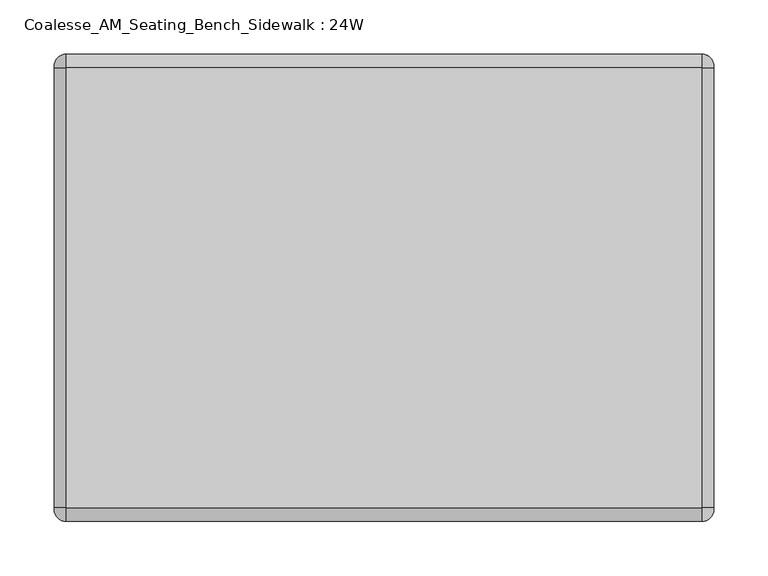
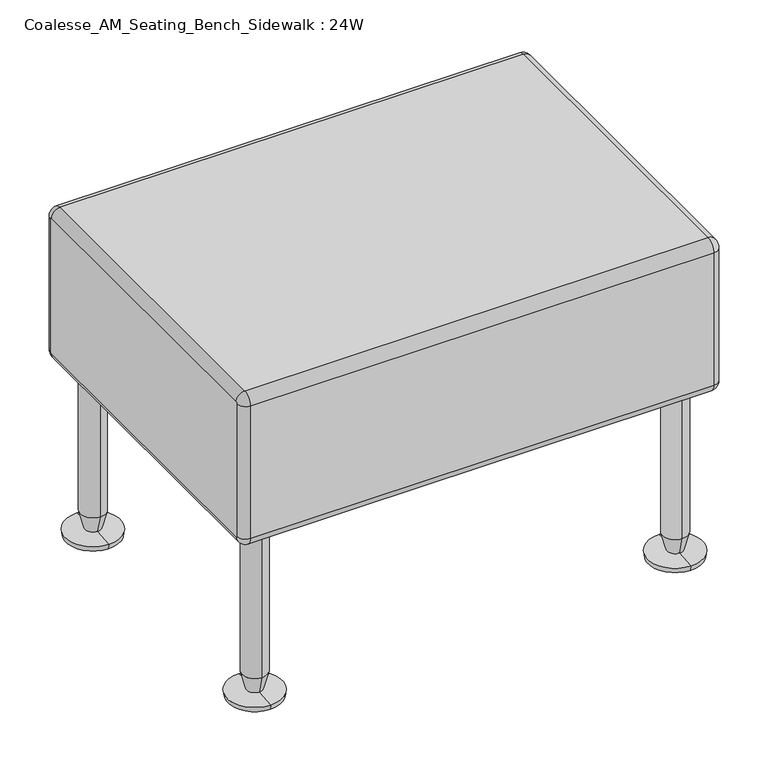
"""IFC4 building model written with IfcOpenShell, lengths in millimetres: furniture geometry, Coalesse_AM_Seating_Bench_Sidewalk : 24W."""

from ifc_helpers import new_model, si_unit, point, frame, origin, place, context, project, spatial, polyline, circle_curve, ellipse_curve, trimmed, source, transform, mapped, element, save
from ifc_brep_helpers import plane_surface, cylinder_surface, revolved_surface, advanced_brep


def coalesse_am_seating_bench_sidewalk_24w_9e0a4b1f(model_context):
    return source(origin(), model_context, "Body", "AdvancedBrep", [
        advanced_brep(
        [(465.8089794, -146.3050929, 420.6875), (465.8089794, -144.7175929, 419.1), (465.8089794, -144.7175929, 241.3), (465.8089794, -146.3050929, 239.7125), (465.8089794, -552.7050929, 239.7125), (465.8089794, -554.2925929, 241.3), (465.8089794, -554.2925929, 419.1), (465.8089794, -552.7050929, 420.6875), (1075.4089794, -552.7050929, 420.6875), (1075.4089794, -554.2925929, 419.1), (1075.4089794, -554.2925929, 241.3), (1075.4089794, -552.7050929, 239.7125), (1075.4089794, -146.3050929, 239.7125), (1075.4089794, -144.7175929, 241.3), (1075.4089794, -144.7175929, 419.1), (1075.4089794, -146.3050929, 420.6875), (476.9214794, -146.3050929, 431.8), (476.9214794, -552.7050929, 431.8), (1064.2964794, -552.7050929, 431.8), (1064.2964794, -146.3050929, 431.8), (476.9214794, -133.6050929, 419.1), (1064.2964794, -133.6050929, 419.1), (476.9214794, -133.6050929, 241.3), (1064.2964794, -133.6050929, 241.3), (476.9214794, -146.3050929, 228.6), (1064.2964794, -146.3050929, 228.6), (476.9214794, -552.7050929, 228.6), (1064.2964794, -552.7050929, 228.6), (476.9214794, -565.4050929, 241.3), (1064.2964794, -565.4050929, 241.3), (476.9214794, -565.4050929, 419.1), (1064.2964794, -565.4050929, 419.1)],
        [
            (0, 1, circle_curve(frame((465.8089794, -146.3050929, 419.1), z_axis=(-1.0, 0.0, 0.0), x_axis=(0.0, 0.0, 1.0)), 1.5875)),
            (1, 2),
            (2, 3, circle_curve(frame((465.8089794, -146.3050929, 241.3), z_axis=(-1.0, 0.0, 0.0), x_axis=(0.0, 1.0, 0.0)), 1.5875)),
            (3, 4),
            (4, 5, circle_curve(frame((465.8089794, -552.7050929, 241.3), z_axis=(-1.0, 0.0, 0.0), x_axis=(0.0, 0.0, -1.0)), 1.5875)),
            (5, 6),
            (6, 7, circle_curve(frame((465.8089794, -552.7050929, 419.1), z_axis=(-1.0, 0.0, 0.0), x_axis=(0.0, -1.0, 0.0)), 1.5875)),
            (7, 0),
            (8, 9, circle_curve(frame((1075.4089794, -552.7050929, 419.1), z_axis=(1.0, 0.0, 0.0), x_axis=(0.0, 0.0, 1.0)), 1.5875)),
            (9, 10),
            (10, 11, circle_curve(frame((1075.4089794, -552.7050929, 241.3), z_axis=(1.0, 0.0, 0.0), x_axis=(0.0, -1.0, 0.0)), 1.5875)),
            (11, 12),
            (12, 13, circle_curve(frame((1075.4089794, -146.3050929, 241.3), z_axis=(1.0, 0.0, 0.0), x_axis=(0.0, 0.0, -1.0)), 1.5875)),
            (13, 14),
            (14, 15, circle_curve(frame((1075.4089794, -146.3050929, 419.1), z_axis=(1.0, 0.0, 0.0), x_axis=(0.0, 1.0, 0.0)), 1.5875)),
            (15, 8),
            (16, 17),
            (17, 18),
            (18, 19),
            (19, 16),
            (20, 16, circle_curve(frame((476.9214794, -146.3050929, 419.1), z_axis=(1.0, 0.0, 0.0), x_axis=(0.0, -1.0, 0.0)), 12.7)),
            (19, 21, circle_curve(frame((1064.2964794, -146.3050929, 419.1), z_axis=(-1.0, 0.0, 0.0), x_axis=(0.0, -1.0, 0.0)), 12.7)),
            (21, 20),
            (22, 20),
            (21, 23),
            (23, 22),
            (24, 22, circle_curve(frame((476.9214794, -146.3050929, 241.3), z_axis=(1.0, 0.0, 0.0), x_axis=(0.0, -1.0, 0.0)), 12.7)),
            (23, 25, circle_curve(frame((1064.2964794, -146.3050929, 241.3), z_axis=(-1.0, 0.0, 0.0), x_axis=(0.0, -1.0, 0.0)), 12.7)),
            (25, 24),
            (26, 24),
            (25, 27),
            (27, 26),
            (28, 26, circle_curve(frame((476.9214794, -552.7050929, 241.3), z_axis=(1.0, 0.0, 0.0), x_axis=(0.0, -1.0, 0.0)), 12.7)),
            (27, 29, circle_curve(frame((1064.2964794, -552.7050929, 241.3), z_axis=(-1.0, 0.0, 0.0), x_axis=(0.0, -1.0, 0.0)), 12.7)),
            (29, 28),
            (30, 28),
            (29, 31),
            (31, 30),
            (17, 30, circle_curve(frame((476.9214794, -552.7050929, 419.1), z_axis=(1.0, 0.0, 0.0), x_axis=(0.0, -1.0, 0.0)), 12.7)),
            (31, 18, circle_curve(frame((1064.2964794, -552.7050929, 419.1), z_axis=(-1.0, 0.0, 0.0), x_axis=(0.0, -1.0, 0.0)), 12.7)),
            (20, 1, circle_curve(frame((476.9214794, -144.7175929, 419.1), z_axis=(0.0, 0.0, 1.0), x_axis=(0.0, -1.0, 0.0)), 11.1125)),
            (0, 16, circle_curve(frame((476.9214794, -146.3050929, 420.6875), z_axis=(0.0, 1.0, 0.0), x_axis=(0.0, 0.0, -1.0)), 11.1125)),
            (22, 2, circle_curve(frame((476.9214794, -144.7175929, 241.3), z_axis=(0.0, 0.0, 1.0), x_axis=(0.0, -1.0, 0.0)), 11.1125)),
            (24, 3, circle_curve(frame((476.9214794, -146.3050929, 239.7125), z_axis=(0.0, 1.0, 0.0), x_axis=(0.0, 0.0, 1.0)), 11.1125)),
            (26, 4, circle_curve(frame((476.9214794, -552.7050929, 239.7125), z_axis=(0.0, 1.0, 0.0), x_axis=(0.0, 0.0, 1.0)), 11.1125)),
            (28, 5, circle_curve(frame((476.9214794, -554.2925929, 241.3), z_axis=(0.0, 0.0, -1.0), x_axis=(0.0, 1.0, 0.0)), 11.1125)),
            (30, 6, circle_curve(frame((476.9214794, -554.2925929, 419.1), z_axis=(0.0, 0.0, -1.0), x_axis=(0.0, 1.0, 0.0)), 11.1125)),
            (17, 7, circle_curve(frame((476.9214794, -552.7050929, 420.6875), z_axis=(0.0, -1.0, 0.0), x_axis=(0.0, 0.0, -1.0)), 11.1125)),
            (31, 9, circle_curve(frame((1064.2964794, -554.2925929, 419.1), z_axis=(0.0, 0.0, 1.0), x_axis=(0.0, -1.0, 0.0)), 11.1125)),
            (8, 18, circle_curve(frame((1064.2964794, -552.7050929, 420.6875), z_axis=(0.0, -1.0, 0.0), x_axis=(0.0, 0.0, 1.0)), 11.1125)),
            (29, 10, circle_curve(frame((1064.2964794, -554.2925929, 241.3), z_axis=(0.0, 0.0, 1.0), x_axis=(0.0, -1.0, 0.0)), 11.1125)),
            (27, 11, circle_curve(frame((1064.2964794, -552.7050929, 239.7125), z_axis=(0.0, -1.0, 0.0), x_axis=(0.0, 0.0, -1.0)), 11.1125)),
            (25, 12, circle_curve(frame((1064.2964794, -146.3050929, 239.7125), z_axis=(0.0, -1.0, 0.0), x_axis=(0.0, 0.0, -1.0)), 11.1125)),
            (23, 13, circle_curve(frame((1064.2964794, -144.7175929, 241.3), z_axis=(0.0, 0.0, -1.0), x_axis=(0.0, 1.0, 0.0)), 11.1125)),
            (21, 14, circle_curve(frame((1064.2964794, -144.7175929, 419.1), z_axis=(0.0, 0.0, -1.0), x_axis=(0.0, 1.0, 0.0)), 11.1125)),
            (19, 15, circle_curve(frame((1064.2964794, -146.3050929, 420.6875), z_axis=(0.0, 1.0, 0.0), x_axis=(0.0, 0.0, 1.0)), 11.1125)),
        ],
        [
            plane_surface(frame((465.8089794, -146.3050929, 431.8), z_axis=(-1.0, 0.0, 0.0), x_axis=(0.0, 1.0, 0.0))),
            plane_surface(frame((1075.4089794, -146.3050929, 431.8), z_axis=(1.0, 0.0, 0.0), x_axis=(0.0, -1.0, 0.0))),
            plane_surface(frame((465.8089794, -552.7050929, 431.8), z_axis=(0.0, 0.0, 1.0), x_axis=(1.0, 0.0, 0.0))),
            cylinder_surface(frame((1075.4089794, -146.3050929, 419.1), z_axis=(-1.0, 0.0, 0.0), x_axis=(0.0, -1.0, 0.0)), 12.7),
            plane_surface(frame((465.8089794, -133.6050929, 419.1), z_axis=(0.0, 1.0, 0.0), x_axis=(1.0, 0.0, 0.0))),
            cylinder_surface(frame((1075.4089794, -146.3050929, 241.3), z_axis=(-1.0, 0.0, 0.0), x_axis=(0.0, -1.0, 0.0)), 12.7),
            plane_surface(frame((465.8089794, -146.3050929, 228.6), z_axis=(0.0, 0.0, -1.0), x_axis=(1.0, 0.0, 0.0))),
            cylinder_surface(frame((1075.4089794, -552.7050929, 241.3), z_axis=(-1.0, 0.0, 0.0), x_axis=(0.0, -1.0, 0.0)), 12.7),
            plane_surface(frame((465.8089794, -565.4050929, 241.3), z_axis=(0.0, -1.0, 0.0), x_axis=(1.0, 0.0, 0.0))),
            cylinder_surface(frame((1075.4089794, -552.7050929, 419.1), z_axis=(-1.0, 0.0, 0.0), x_axis=(0.0, -1.0, 0.0)), 12.7),
            revolved_surface(trimmed(ellipse_curve(frame((476.9214794, -146.3050929, 420.6875), z_axis=(0.0, -1.0, 0.0), x_axis=(0.0, 0.0, -1.0)), 11.1125, 11.1125), [point((476.9214794, -146.3050929, 431.8))], [point((465.8089794, -146.3050929, 420.6875))], True, "CARTESIAN"), (465.8089794, -146.3050929, 419.1), (-1.0, 0.0, 0.0)),
            cylinder_surface(frame((476.9214794, -144.7175929, 419.1), z_axis=(0.0, 0.0, -1.0), x_axis=(0.0, -1.0, 0.0)), 11.1125),
            revolved_surface(trimmed(ellipse_curve(frame((476.9214794, -144.7175929, 241.3), z_axis=(0.0, 0.0, 1.0), x_axis=(0.0, -1.0, 0.0)), 11.1125, 11.1125), [point((476.9214794, -133.6050929, 241.3))], [point((465.8089794, -144.7175929, 241.3))], True, "CARTESIAN"), (465.8089794, -146.3050929, 241.3), (-1.0, 0.0, 0.0)),
            cylinder_surface(frame((476.9214794, -146.3050929, 239.7125), z_axis=(0.0, -1.0, 0.0), x_axis=(0.0, 0.0, 1.0)), 11.1125),
            revolved_surface(trimmed(ellipse_curve(frame((476.9214794, -552.7050929, 239.7125), z_axis=(0.0, 1.0, 0.0), x_axis=(0.0, 0.0, 1.0)), 11.1125, 11.1125), [point((476.9214794, -552.7050929, 228.6))], [point((465.8089794, -552.7050929, 239.7125))], True, "CARTESIAN"), (465.8089794, -552.7050929, 241.3), (-1.0, 0.0, 0.0)),
            cylinder_surface(frame((476.9214794, -554.2925929, 241.3), z_axis=(0.0, 0.0, 1.0), x_axis=(0.0, 1.0, 0.0)), 11.1125),
            revolved_surface(trimmed(ellipse_curve(frame((476.9214794, -554.2925929, 419.1), z_axis=(0.0, 0.0, -1.0), x_axis=(0.0, 1.0, 0.0)), 11.1125, 11.1125), [point((476.9214794, -565.4050929, 419.1))], [point((465.8089794, -554.2925929, 419.1))], True, "CARTESIAN"), (465.8089794, -552.7050929, 419.1), (-1.0, 0.0, 0.0)),
            cylinder_surface(frame((476.9214794, -552.7050929, 420.6875), z_axis=(0.0, 1.0, 0.0), x_axis=(0.0, 0.0, -1.0)), 11.1125),
            revolved_surface(trimmed(ellipse_curve(frame((1064.2964794, -552.7050929, 420.6875), z_axis=(0.0, 1.0, 0.0), x_axis=(0.0, 0.0, 1.0)), 11.1125, 11.1125), [point((1064.2964794, -552.7050929, 431.8))], [point((1075.4089794, -552.7050929, 420.6875))], True, "CARTESIAN"), (1075.4089794, -552.7050929, 419.1), (1.0, 0.0, 0.0)),
            cylinder_surface(frame((1064.2964794, -554.2925929, 419.1), z_axis=(0.0, 0.0, -1.0), x_axis=(0.0, -1.0, 0.0)), 11.1125),
            revolved_surface(trimmed(ellipse_curve(frame((1064.2964794, -554.2925929, 241.3), z_axis=(0.0, 0.0, 1.0), x_axis=(0.0, -1.0, 0.0)), 11.1125, 11.1125), [point((1064.2964794, -565.4050929, 241.3))], [point((1075.4089794, -554.2925929, 241.3))], True, "CARTESIAN"), (1075.4089794, -552.7050929, 241.3), (1.0, 0.0, 0.0)),
            cylinder_surface(frame((1064.2964794, -552.7050929, 239.7125), z_axis=(0.0, 1.0, 0.0), x_axis=(0.0, 0.0, -1.0)), 11.1125),
            revolved_surface(trimmed(ellipse_curve(frame((1064.2964794, -146.3050929, 239.7125), z_axis=(0.0, -1.0, 0.0), x_axis=(0.0, 0.0, -1.0)), 11.1125, 11.1125), [point((1064.2964794, -146.3050929, 228.6))], [point((1075.4089794, -146.3050929, 239.7125))], True, "CARTESIAN"), (1075.4089794, -146.3050929, 241.3), (1.0, 0.0, 0.0)),
            cylinder_surface(frame((1064.2964794, -144.7175929, 241.3), z_axis=(0.0, 0.0, 1.0), x_axis=(0.0, 1.0, 0.0)), 11.1125),
            revolved_surface(trimmed(ellipse_curve(frame((1064.2964794, -144.7175929, 419.1), z_axis=(0.0, 0.0, -1.0), x_axis=(0.0, 1.0, 0.0)), 11.1125, 11.1125), [point((1064.2964794, -133.6050929, 419.1))], [point((1075.4089794, -144.7175929, 419.1))], True, "CARTESIAN"), (1075.4089794, -146.3050929, 419.1), (1.0, 0.0, 0.0)),
            cylinder_surface(frame((1064.2964794, -146.3050929, 420.6875), z_axis=(0.0, -1.0, 0.0), x_axis=(0.0, 0.0, 1.0)), 11.1125),
        ],
        [
            (0, [[1, 2, 3, 4, 5, 6, 7, 8]]),
            (1, [[9, 10, 11, 12, 13, 14, 15, 16]]),
            (2, [[17, 18, 19, 20]]),
            (3, [[21, -20, 22, 23]]),
            (4, [[24, -23, 25, 26]]),
            (5, [[27, -26, 28, 29]]),
            (6, [[30, -29, 31, 32]]),
            (7, [[33, -32, 34, 35]]),
            (8, [[36, -35, 37, 38]]),
            (9, [[39, -38, 40, -18]]),
            (10, [[41, -1, 42, -21]]),
            (11, [[-41, -24, 43, -2]]),
            (12, [[-43, -27, 44, -3]]),
            (13, [[-44, -30, 45, -4]]),
            (14, [[-45, -33, 46, -5]]),
            (15, [[-46, -36, 47, -6]]),
            (16, [[-47, -39, 48, -7]]),
            (17, [[-42, -8, -48, -17]]),
            (18, [[49, -9, 50, -40]]),
            (19, [[-49, -37, 51, -10]]),
            (20, [[-51, -34, 52, -11]]),
            (21, [[-52, -31, 53, -12]]),
            (22, [[-53, -28, 54, -13]]),
            (23, [[-54, -25, 55, -14]]),
            (24, [[-55, -22, 56, -15]]),
            (25, [[-50, -16, -56, -19]]),
        ],
    ),
        advanced_brep(
        [(1037.3089794, -187.5800929, 31.75), (1037.3089794, -155.8300929, 31.75), (1037.3089794, -155.8300929, 228.6), (1037.3089794, -187.5800929, 228.6), (1037.3089794, -181.5884463, 8.5001207), (1037.3089794, -161.8217394, 8.5001207), (1037.3089794, -206.6300929, 6.35), (1037.3089794, -136.7800929, 6.35), (1037.3089794, -205.5717596, 0.0), (1037.3089794, -137.8384262, 0.0), (1037.3089794, -171.7050929, 0.0), (1037.3089794, -171.7050929, 228.6)],
        [
            (0, 1, circle_curve(frame((1037.3089794, -171.7050929, 31.75), z_axis=(0.0, 0.0, 1.0), x_axis=(0.0, 1.0, 0.0)), 15.875)),
            (1, 2),
            (2, 3, circle_curve(frame((1037.3089794, -171.7050929, 228.6), z_axis=(0.0, 0.0, -1.0), x_axis=(0.0, 1.0, 0.0)), 15.875)),
            (3, 0),
            (1, 0, circle_curve(frame((1037.3089794, -171.7050929, 31.75), z_axis=(0.0, 0.0, 1.0), x_axis=(0.0, 1.0, 0.0)), 15.875)),
            (3, 2, circle_curve(frame((1037.3089794, -171.7050929, 228.6), z_axis=(0.0, 0.0, -1.0), x_axis=(0.0, 1.0, 0.0)), 15.875)),
            (4, 5, circle_curve(frame((1037.3089794, -171.7050929, 8.5001207), z_axis=(0.0, 0.0, 1.0), x_axis=(0.0, 1.0, 0.0)), 9.8833534)),
            (5, 1),
            (0, 4),
            (5, 4, circle_curve(frame((1037.3089794, -171.7050929, 8.5001207), z_axis=(0.0, 0.0, 1.0), x_axis=(0.0, 1.0, 0.0)), 9.8833534)),
            (6, 7, circle_curve(frame((1037.3089794, -171.7050929, 6.35), z_axis=(0.0, 0.0, 1.0), x_axis=(0.0, 1.0, 0.0)), 34.925)),
            (7, 5),
            (4, 6),
            (7, 6, circle_curve(frame((1037.3089794, -171.7050929, 6.35), z_axis=(0.0, 0.0, 1.0), x_axis=(0.0, 1.0, 0.0)), 34.925)),
            (8, 9, circle_curve(frame((1037.3089794, -171.7050929, 0.0), z_axis=(0.0, 0.0, 1.0), x_axis=(0.0, 1.0, 0.0)), 33.8666667)),
            (9, 7),
            (6, 8),
            (9, 8, circle_curve(frame((1037.3089794, -171.7050929, 0.0), z_axis=(0.0, 0.0, 1.0), x_axis=(0.0, 1.0, 0.0)), 33.8666667)),
            (10, 9),
            (8, 10),
            (2, 11),
            (11, 3),
        ],
        [
            cylinder_surface(frame((1037.3089794, -171.7050929, -95.25), z_axis=(0.0, 0.0, -1.0), x_axis=(0.0, 1.0, 0.0)), 15.875),
            revolved_surface(polyline([(1037.3089794, -155.8300929, 31.75), (1037.3089794, -161.8217394, 8.5001207)]), (1037.3089794, -171.7050929, -95.25), (0.0, 0.0, -1.0)),
            revolved_surface(polyline([(1037.3089794, -161.8217394, 8.5001207), (1037.3089794, -136.7800929, 6.35)]), (1037.3089794, -171.7050929, -95.25), (0.0, 0.0, -1.0)),
            revolved_surface(polyline([(1037.3089794, -136.7800929, 6.35), (1037.3089794, -137.8384262, 0.0)]), (1037.3089794, -171.7050929, -95.25), (0.0, 0.0, -1.0)),
            plane_surface(frame((1037.3089794, -171.7050929, 0.0), z_axis=(0.0, 0.0, -1.0), x_axis=(0.0, 1.0, 0.0))),
            plane_surface(frame((1037.3089794, -171.7050929, 228.6), z_axis=(0.0, 0.0, 1.0), x_axis=(0.0, 1.0, 0.0))),
        ],
        [
            (0, [[1, 2, 3, 4]]),
            (0, [[5, -4, 6, -2]]),
            (1, [[7, 8, -1, 9]]),
            (1, [[10, -9, -5, -8]]),
            (2, [[11, 12, -7, 13]]),
            (2, [[14, -13, -10, -12]]),
            (3, [[15, 16, -11, 17]]),
            (3, [[18, -17, -14, -16]]),
            (4, [[19, -15, 20]]),
            (4, [[-20, -18, -19]]),
            (5, [[-3, 21, 22]]),
            (5, [[-6, -22, -21]]),
        ],
    ),
        advanced_brep(
        [(503.9089794, -171.7050929, 228.6), (503.9089794, -155.8300929, 228.6), (503.9089794, -187.5800929, 228.6), (503.9089794, -205.5717596, 0.0), (503.9089794, -137.8384262, 0.0), (503.9089794, -171.7050929, 0.0), (503.9089794, -206.6300929, 6.35), (503.9089794, -136.7800929, 6.35), (503.9089794, -181.5884463, 8.5001207), (503.9089794, -161.8217394, 8.5001207), (503.9089794, -187.5800929, 31.75), (503.9089794, -155.8300929, 31.75)],
        [
            (0, 1),
            (1, 2, circle_curve(frame((503.9089794, -171.7050929, 228.6), z_axis=(0.0, 0.0, 1.0), x_axis=(0.0, 1.0, 0.0)), 15.875)),
            (2, 0),
            (2, 1, circle_curve(frame((503.9089794, -171.7050929, 228.6), z_axis=(0.0, 0.0, 1.0), x_axis=(0.0, 1.0, 0.0)), 15.875)),
            (3, 4, circle_curve(frame((503.9089794, -171.7050929, 0.0), z_axis=(0.0, 0.0, -1.0), x_axis=(0.0, 1.0, 0.0)), 33.8666667)),
            (4, 5),
            (5, 3),
            (4, 3, circle_curve(frame((503.9089794, -171.7050929, 0.0), z_axis=(0.0, 0.0, -1.0), x_axis=(0.0, 1.0, 0.0)), 33.8666667)),
            (6, 7, circle_curve(frame((503.9089794, -171.7050929, 6.35), z_axis=(0.0, 0.0, -1.0), x_axis=(0.0, 1.0, 0.0)), 34.925)),
            (7, 4),
            (3, 6),
            (7, 6, circle_curve(frame((503.9089794, -171.7050929, 6.35), z_axis=(0.0, 0.0, -1.0), x_axis=(0.0, 1.0, 0.0)), 34.925)),
            (8, 9, circle_curve(frame((503.9089794, -171.7050929, 8.5001207), z_axis=(0.0, 0.0, -1.0), x_axis=(0.0, 1.0, 0.0)), 9.8833534)),
            (9, 7),
            (6, 8),
            (9, 8, circle_curve(frame((503.9089794, -171.7050929, 8.5001207), z_axis=(0.0, 0.0, -1.0), x_axis=(0.0, 1.0, 0.0)), 9.8833534)),
            (10, 11, circle_curve(frame((503.9089794, -171.7050929, 31.75), z_axis=(0.0, 0.0, -1.0), x_axis=(0.0, 1.0, 0.0)), 15.875)),
            (11, 9),
            (8, 10),
            (11, 10, circle_curve(frame((503.9089794, -171.7050929, 31.75), z_axis=(0.0, 0.0, -1.0), x_axis=(0.0, 1.0, 0.0)), 15.875)),
            (1, 11),
            (10, 2),
        ],
        [
            plane_surface(frame((503.9089794, -171.7050929, 228.6), z_axis=(0.0, 0.0, 1.0), x_axis=(0.0, 1.0, 0.0))),
            plane_surface(frame((503.9089794, -171.7050929, 0.0), z_axis=(0.0, 0.0, -1.0), x_axis=(0.0, 1.0, 0.0))),
            revolved_surface(polyline([(503.9089794, -137.8384262, 0.0), (503.9089794, -136.7800929, 6.35)]), (503.9089794, -171.7050929, -95.25), (0.0, 0.0, 1.0)),
            revolved_surface(polyline([(503.9089794, -136.7800929, 6.35), (503.9089794, -161.8217394, 8.5001207)]), (503.9089794, -171.7050929, -95.25), (0.0, 0.0, 1.0)),
            revolved_surface(polyline([(503.9089794, -161.8217394, 8.5001207), (503.9089794, -155.8300929, 31.75)]), (503.9089794, -171.7050929, -95.25), (0.0, 0.0, 1.0)),
            cylinder_surface(frame((503.9089794, -171.7050929, -95.25), z_axis=(0.0, 0.0, 1.0), x_axis=(0.0, 1.0, 0.0)), 15.875),
        ],
        [
            (0, [[1, 2, 3]]),
            (0, [[-3, 4, -1]]),
            (1, [[5, 6, 7]]),
            (1, [[8, -7, -6]]),
            (2, [[9, 10, -5, 11]]),
            (2, [[12, -11, -8, -10]]),
            (3, [[13, 14, -9, 15]]),
            (3, [[16, -15, -12, -14]]),
            (4, [[17, 18, -13, 19]]),
            (4, [[20, -19, -16, -18]]),
            (5, [[-2, 21, -17, 22]]),
            (5, [[-4, -22, -20, -21]]),
        ],
    ),
        advanced_brep(
        [(1037.3089794, -543.1800929, 31.75), (1037.3089794, -511.4300929, 31.75), (1037.3089794, -511.4300929, 228.6), (1037.3089794, -543.1800929, 228.6), (1037.3089794, -537.1884463, 8.5001207), (1037.3089794, -517.4217394, 8.5001207), (1037.3089794, -562.2300929, 6.35), (1037.3089794, -492.3800929, 6.35), (1037.3089794, -561.1717596, 0.0), (1037.3089794, -493.4384262, 0.0), (1037.3089794, -527.3050929, 0.0), (1037.3089794, -527.3050929, 228.6)],
        [
            (0, 1, circle_curve(frame((1037.3089794, -527.3050929, 31.75), z_axis=(0.0, 0.0, 1.0), x_axis=(0.0, 1.0, 0.0)), 15.875)),
            (1, 2),
            (2, 3, circle_curve(frame((1037.3089794, -527.3050929, 228.6), z_axis=(0.0, 0.0, -1.0), x_axis=(0.0, 1.0, 0.0)), 15.875)),
            (3, 0),
            (1, 0, circle_curve(frame((1037.3089794, -527.3050929, 31.75), z_axis=(0.0, 0.0, 1.0), x_axis=(0.0, 1.0, 0.0)), 15.875)),
            (3, 2, circle_curve(frame((1037.3089794, -527.3050929, 228.6), z_axis=(0.0, 0.0, -1.0), x_axis=(0.0, 1.0, 0.0)), 15.875)),
            (4, 5, circle_curve(frame((1037.3089794, -527.3050929, 8.5001207), z_axis=(0.0, 0.0, 1.0), x_axis=(0.0, 1.0, 0.0)), 9.8833534)),
            (5, 1),
            (0, 4),
            (5, 4, circle_curve(frame((1037.3089794, -527.3050929, 8.5001207), z_axis=(0.0, 0.0, 1.0), x_axis=(0.0, 1.0, 0.0)), 9.8833534)),
            (6, 7, circle_curve(frame((1037.3089794, -527.3050929, 6.35), z_axis=(0.0, 0.0, 1.0), x_axis=(0.0, 1.0, 0.0)), 34.925)),
            (7, 5),
            (4, 6),
            (7, 6, circle_curve(frame((1037.3089794, -527.3050929, 6.35), z_axis=(0.0, 0.0, 1.0), x_axis=(0.0, 1.0, 0.0)), 34.925)),
            (8, 9, circle_curve(frame((1037.3089794, -527.3050929, 0.0), z_axis=(0.0, 0.0, 1.0), x_axis=(0.0, 1.0, 0.0)), 33.8666667)),
            (9, 7),
            (6, 8),
            (9, 8, circle_curve(frame((1037.3089794, -527.3050929, 0.0), z_axis=(0.0, 0.0, 1.0), x_axis=(0.0, 1.0, 0.0)), 33.8666667)),
            (10, 9),
            (8, 10),
            (2, 11),
            (11, 3),
        ],
        [
            cylinder_surface(frame((1037.3089794, -527.3050929, -95.25), z_axis=(0.0, 0.0, -1.0), x_axis=(0.0, 1.0, 0.0)), 15.875),
            revolved_surface(polyline([(1037.3089794, -511.4300929, 31.75), (1037.3089794, -517.4217394, 8.5001207)]), (1037.3089794, -527.3050929, -95.25), (0.0, 0.0, -1.0)),
            revolved_surface(polyline([(1037.3089794, -517.4217394, 8.5001207), (1037.3089794, -492.3800929, 6.35)]), (1037.3089794, -527.3050929, -95.25), (0.0, 0.0, -1.0)),
            revolved_surface(polyline([(1037.3089794, -492.3800929, 6.35), (1037.3089794, -493.4384262, 0.0)]), (1037.3089794, -527.3050929, -95.25), (0.0, 0.0, -1.0)),
            plane_surface(frame((1037.3089794, -527.3050929, 0.0), z_axis=(0.0, 0.0, -1.0), x_axis=(0.0, 1.0, 0.0))),
            plane_surface(frame((1037.3089794, -527.3050929, 228.6), z_axis=(0.0, 0.0, 1.0), x_axis=(0.0, 1.0, 0.0))),
        ],
        [
            (0, [[1, 2, 3, 4]]),
            (0, [[5, -4, 6, -2]]),
            (1, [[7, 8, -1, 9]]),
            (1, [[10, -9, -5, -8]]),
            (2, [[11, 12, -7, 13]]),
            (2, [[14, -13, -10, -12]]),
            (3, [[15, 16, -11, 17]]),
            (3, [[18, -17, -14, -16]]),
            (4, [[19, -15, 20]]),
            (4, [[-20, -18, -19]]),
            (5, [[-3, 21, 22]]),
            (5, [[-6, -22, -21]]),
        ],
    ),
        advanced_brep(
        [(503.9089794, -527.3050929, 228.6), (503.9089794, -511.4300929, 228.6), (503.9089794, -543.1800929, 228.6), (503.9089794, -561.1717596, 0.0), (503.9089794, -493.4384262, 0.0), (503.9089794, -527.3050929, 0.0), (503.9089794, -562.2300929, 6.35), (503.9089794, -492.3800929, 6.35), (503.9089794, -537.1884463, 8.5001207), (503.9089794, -517.4217394, 8.5001207), (503.9089794, -543.1800929, 31.75), (503.9089794, -511.4300929, 31.75)],
        [
            (0, 1),
            (1, 2, circle_curve(frame((503.9089794, -527.3050929, 228.6), z_axis=(0.0, 0.0, 1.0), x_axis=(0.0, 1.0, 0.0)), 15.875)),
            (2, 0),
            (2, 1, circle_curve(frame((503.9089794, -527.3050929, 228.6), z_axis=(0.0, 0.0, 1.0), x_axis=(0.0, 1.0, 0.0)), 15.875)),
            (3, 4, circle_curve(frame((503.9089794, -527.3050929, 0.0), z_axis=(0.0, 0.0, -1.0), x_axis=(0.0, 1.0, 0.0)), 33.8666667)),
            (4, 5),
            (5, 3),
            (4, 3, circle_curve(frame((503.9089794, -527.3050929, 0.0), z_axis=(0.0, 0.0, -1.0), x_axis=(0.0, 1.0, 0.0)), 33.8666667)),
            (6, 7, circle_curve(frame((503.9089794, -527.3050929, 6.35), z_axis=(0.0, 0.0, -1.0), x_axis=(0.0, 1.0, 0.0)), 34.925)),
            (7, 4),
            (3, 6),
            (7, 6, circle_curve(frame((503.9089794, -527.3050929, 6.35), z_axis=(0.0, 0.0, -1.0), x_axis=(0.0, 1.0, 0.0)), 34.925)),
            (8, 9, circle_curve(frame((503.9089794, -527.3050929, 8.5001207), z_axis=(0.0, 0.0, -1.0), x_axis=(0.0, 1.0, 0.0)), 9.8833534)),
            (9, 7),
            (6, 8),
            (9, 8, circle_curve(frame((503.9089794, -527.3050929, 8.5001207), z_axis=(0.0, 0.0, -1.0), x_axis=(0.0, 1.0, 0.0)), 9.8833534)),
            (10, 11, circle_curve(frame((503.9089794, -527.3050929, 31.75), z_axis=(0.0, 0.0, -1.0), x_axis=(0.0, 1.0, 0.0)), 15.875)),
            (11, 9),
            (8, 10),
            (11, 10, circle_curve(frame((503.9089794, -527.3050929, 31.75), z_axis=(0.0, 0.0, -1.0), x_axis=(0.0, 1.0, 0.0)), 15.875)),
            (1, 11),
            (10, 2),
        ],
        [
            plane_surface(frame((503.9089794, -527.3050929, 228.6), z_axis=(0.0, 0.0, 1.0), x_axis=(0.0, 1.0, 0.0))),
            plane_surface(frame((503.9089794, -527.3050929, 0.0), z_axis=(0.0, 0.0, -1.0), x_axis=(0.0, 1.0, 0.0))),
            revolved_surface(polyline([(503.9089794, -493.4384262, 0.0), (503.9089794, -492.3800929, 6.35)]), (503.9089794, -527.3050929, -95.25), (0.0, 0.0, 1.0)),
            revolved_surface(polyline([(503.9089794, -492.3800929, 6.35), (503.9089794, -517.4217394, 8.5001207)]), (503.9089794, -527.3050929, -95.25), (0.0, 0.0, 1.0)),
            revolved_surface(polyline([(503.9089794, -517.4217394, 8.5001207), (503.9089794, -511.4300929, 31.75)]), (503.9089794, -527.3050929, -95.25), (0.0, 0.0, 1.0)),
            cylinder_surface(frame((503.9089794, -527.3050929, -95.25), z_axis=(0.0, 0.0, 1.0), x_axis=(0.0, 1.0, 0.0)), 15.875),
        ],
        [
            (0, [[1, 2, 3]]),
            (0, [[-3, 4, -1]]),
            (1, [[5, 6, 7]]),
            (1, [[8, -7, -6]]),
            (2, [[9, 10, -5, 11]]),
            (2, [[12, -11, -8, -10]]),
            (3, [[13, 14, -9, 15]]),
            (3, [[16, -15, -12, -14]]),
            (4, [[17, 18, -13, 19]]),
            (4, [[20, -19, -16, -18]]),
            (5, [[-2, 21, -17, 22]]),
            (5, [[-4, -22, -20, -21]]),
        ],
    ),
    ])


if __name__ == "__main__":
    model = new_model("IFC4")
    model_context = context("Model", 3, world=origin())
    ifc_project = project(units=[si_unit("LENGTHUNIT", "METRE", prefix="MILLI")], contexts=[model_context])
    site = spatial("IfcSite", under=ifc_project)
    building = spatial("IfcBuilding", under=site)
    placement = place(None, origin())
    coalesse_am_seating_bench_sidewalk_24w_shape = coalesse_am_seating_bench_sidewalk_24w_9e0a4b1f(model_context)
    element("IfcFurniture", 1, ObjectType="Coalesse_AM_Seating_Bench_Sidewalk : 24W", at=placement, inside=building, context=model_context, shape_type="MappedRepresentation", body=[
        mapped(coalesse_am_seating_bench_sidewalk_24w_shape, transform((0.0, 0.0, 0.0), x_axis=(1.0, 0.0, 0.0), y_axis=(0.0, 1.0, 0.0), z_axis=(0.0, 0.0, 1.0))),
    ])
    save(model, "model.ifc")
